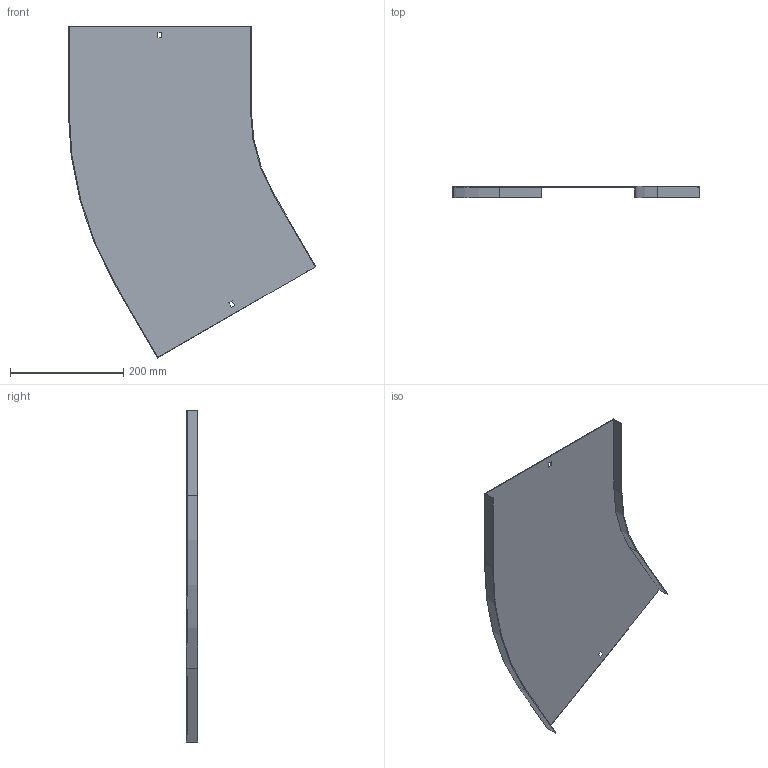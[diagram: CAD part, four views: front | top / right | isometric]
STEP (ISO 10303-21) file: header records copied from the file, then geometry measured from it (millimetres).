
FILE_DESCRIPTION (( 'STEP AP214' ), '1' );
FILE_NAME ('12N3P300.step', '2025-02-21T13:33:51', ( '' ), ( '' ), 'SwSTEP 2.0', 'SolidWorks 2023', '' );
FILE_SCHEMA (( 'AUTOMOTIVE_DESIGN' ));
Length unit declared in the file: millimetre
Products named in the file (1): 12N3P300
Bounding box: 436.65 x 20 x 585.65 mm (x, y, z)
Volume: 289059 mm3; surface area: 388191.9 mm2
Topology: 1 solids, 1 shells, 26 faces, 72 edges, 48 vertices
Faces by surface type: plane 22, cylinder 4
Entity records: 855 total; most frequent: CARTESIAN_POINT 147, ORIENTED_EDGE 144, DIRECTION 134, EDGE_CURVE 72, VECTOR 64, LINE 64, VERTEX_POINT 48, AXIS2_PLACEMENT_3D 35
